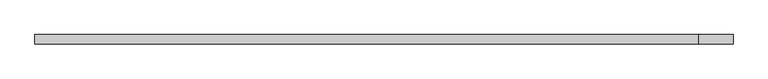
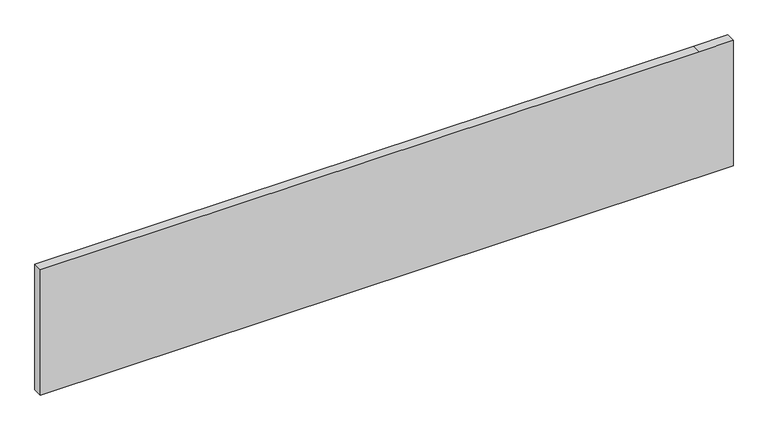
"""IFC4 building model written with IfcOpenShell, lengths in millimetres: plate geometry, 系统嵌板 : 玻璃."""

from ifc_helpers import new_model, si_unit, frame, origin, place, context, project, spatial, polyline, outline, extrude, source, transform, mapped, element, save


def plate_8ec1f512(model_context):
    return source(origin(), model_context, "Body", "SweptSolid", [
        extrude(outline(polyline([(0.0, -915.0), (0.0, 915.0), (350.0, 915.0), (350.0, 825.0), (350.0, -915.0), (0.0, -915.0)])), frame((0.0, -12.5, 0.0), z_axis=(0.0, 1.0, 0.0), x_axis=(0.0, 0.0, 1.0)), (0.0, 0.0, 1.0), 25.0),
    ])


if __name__ == "__main__":
    model = new_model("IFC4")
    model_context = context("Model", 3, world=origin())
    ifc_project = project(units=[si_unit("LENGTHUNIT", "METRE", prefix="MILLI")], contexts=[model_context])
    site = spatial("IfcSite", under=ifc_project)
    building = spatial("IfcBuilding", under=site)
    placement = place(None, origin())
    plate_shape = plate_8ec1f512(model_context)
    element("IfcPlate", 1, ObjectType="系统嵌板 : 玻璃", at=placement, inside=building, context=model_context, shape_type="MappedRepresentation", body=[
        mapped(plate_shape, transform((0.0, 0.0, 0.0), x_axis=(1.0, 0.0, 0.0), y_axis=(0.0, 1.0, 0.0), z_axis=(0.0, 0.0, 1.0))),
    ])
    save(model, "model.ifc")
